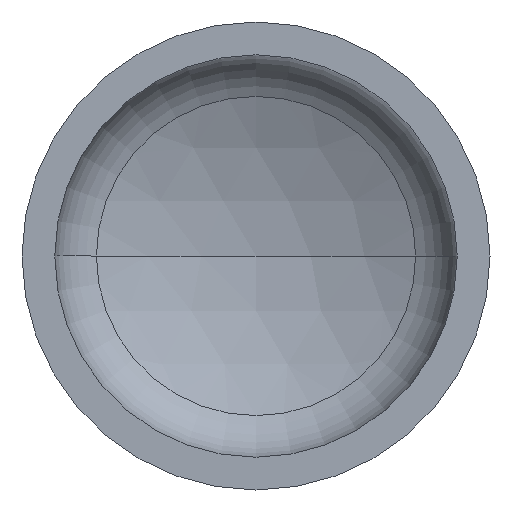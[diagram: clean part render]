
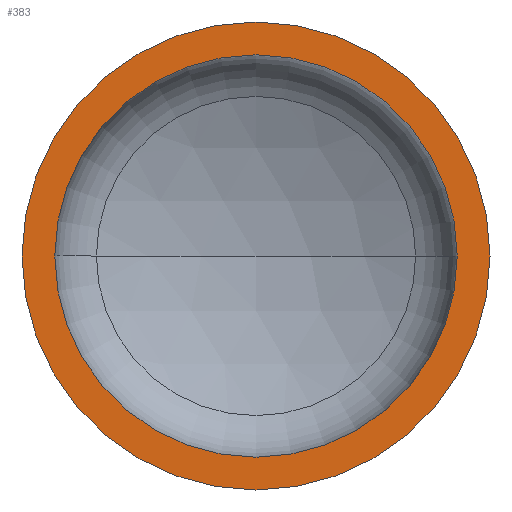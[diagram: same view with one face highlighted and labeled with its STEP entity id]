
A CAD part, front view. The second image highlights one B-rep face of the part: STEP entity #383.
In plain terms, the highlighted planar face has unit normal (0, -1, 0).
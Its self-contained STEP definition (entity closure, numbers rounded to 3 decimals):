
#2 = EDGE_LOOP ( 'NONE', ( #10, #32 ) ) ;
#10 = ORIENTED_EDGE ( 'NONE', *, *, #316, .T. ) ;
#16 = VERTEX_POINT ( 'NONE', #273 ) ;
#25 = VERTEX_POINT ( 'NONE', #272 ) ;
#32 = ORIENTED_EDGE ( 'NONE', *, *, #112, .T. ) ;
#36 = DIRECTION ( 'NONE',  ( 1., 0., 0. ) ) ;
#37 = AXIS2_PLACEMENT_3D ( 'NONE', #43, #39, #36 ) ;
#39 = DIRECTION ( 'NONE',  ( 0., -1., 0. ) ) ;
#43 = CARTESIAN_POINT ( 'NONE',  ( 0., 0., 0. ) ) ;
#64 = AXIS2_PLACEMENT_3D ( 'NONE', #81, #319, #85 ) ;
#73 = EDGE_LOOP ( 'NONE', ( #89, #131 ) ) ;
#74 = VERTEX_POINT ( 'NONE', #231 ) ;
#78 = AXIS2_PLACEMENT_3D ( 'NONE', #299, #298, #295 ) ;
#80 = AXIS2_PLACEMENT_3D ( 'NONE', #342, #339, #337 ) ;
#81 = CARTESIAN_POINT ( 'NONE',  ( 0., 0., 0. ) ) ;
#85 = DIRECTION ( 'NONE',  ( 1., 0., 0. ) ) ;
#89 = ORIENTED_EDGE ( 'NONE', *, *, #122, .F. ) ;
#100 = DIRECTION ( 'NONE',  ( -1., 0., 0. ) ) ;
#107 = VERTEX_POINT ( 'NONE', #230 ) ;
#112 = EDGE_CURVE ( 'NONE', #16, #107, #233, .T. ) ;
#122 = EDGE_CURVE ( 'NONE', #25, #74, #404, .T. ) ;
#131 = ORIENTED_EDGE ( 'NONE', *, *, #136, .F. ) ;
#136 = EDGE_CURVE ( 'NONE', #74, #25, #341, .T. ) ;
#137 = CARTESIAN_POINT ( 'NONE',  ( -500., 0., 0. ) ) ;
#169 = FACE_OUTER_BOUND ( 'NONE', #2, .T. ) ;
#175 = FACE_BOUND ( 'NONE', #73, .T. ) ;
#230 = CARTESIAN_POINT ( 'NONE',  ( 500., 0., 0. ) ) ;
#231 = CARTESIAN_POINT ( 'NONE',  ( -430., 0., 0. ) ) ;
#233 = CIRCLE ( 'NONE', #80, 500. ) ;
#272 = CARTESIAN_POINT ( 'NONE',  ( 430., 0., 0. ) ) ;
#273 = CARTESIAN_POINT ( 'NONE',  ( -500., 0., 0. ) ) ;
#280 = DIRECTION ( 'NONE',  ( 0., 1., 0. ) ) ;
#295 = DIRECTION ( 'NONE',  ( 1., 0., 0. ) ) ;
#298 = DIRECTION ( 'NONE',  ( 0., -1., 0. ) ) ;
#299 = CARTESIAN_POINT ( 'NONE',  ( 0., 0., 0. ) ) ;
#314 = CIRCLE ( 'NONE', #37, 500. ) ;
#316 = EDGE_CURVE ( 'NONE', #107, #16, #314, .T. ) ;
#319 = DIRECTION ( 'NONE',  ( 0., -1., 0. ) ) ;
#337 = DIRECTION ( 'NONE',  ( 1., 0., 0. ) ) ;
#339 = DIRECTION ( 'NONE',  ( 0., -1., 0. ) ) ;
#341 = CIRCLE ( 'NONE', #64, 430. ) ;
#342 = CARTESIAN_POINT ( 'NONE',  ( 0., 0., 0. ) ) ;
#372 = PLANE ( 'NONE',  #402 ) ;
#383 = ADVANCED_FACE ( 'NONE', ( #175, #169 ), #372, .F. ) ;
#402 = AXIS2_PLACEMENT_3D ( 'NONE', #137, #280, #100 ) ;
#404 = CIRCLE ( 'NONE', #78, 430. ) ;
